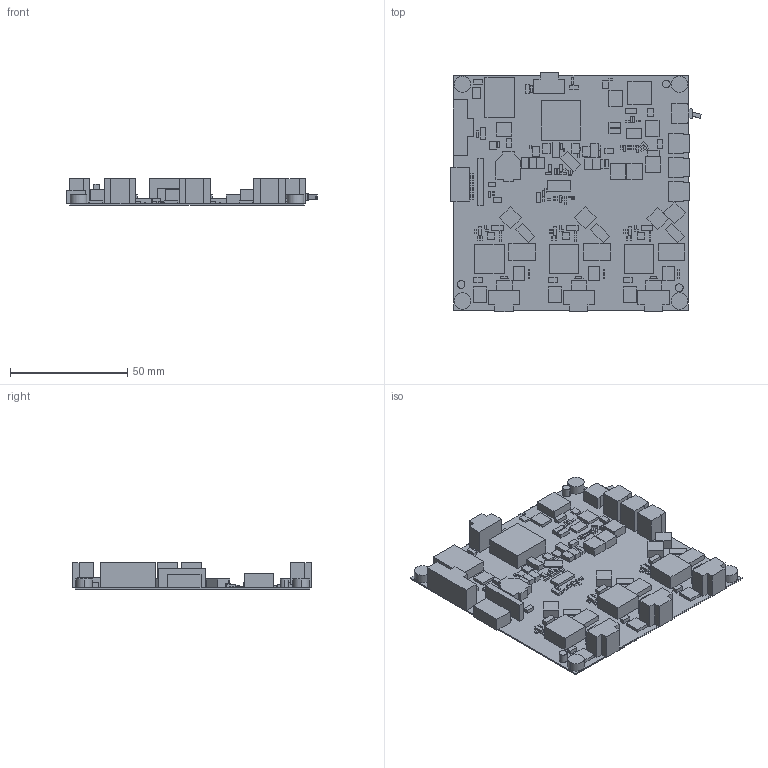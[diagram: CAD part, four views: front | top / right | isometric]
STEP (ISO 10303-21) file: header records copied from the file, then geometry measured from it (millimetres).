
FILE_DESCRIPTION(/* description */ ('PCB Design'),/* implementation_level */ '2;1');
FILE_NAME(/* name */ 'DLP006C_DLP5531-Q1_HL_Driver',/* time_stamp */ '2023-12-20T14:59:58-06:00',/* author */ ('a0227197'),/* organization */ (''),/* preprocessor_version */ 'ST-DEVELOPER v16',/* originating_system */ 'allegro_17.4S029',/* authorisation */ '');
FILE_SCHEMA (('AUTOMOTIVE_DESIGN { 1 0 10303 214 3 1 1 }'));
Length unit declared in the file: millimetre
Products named in the file (52): DLP006C_DLP5531-Q1_HL_DRIVER; BOARD_OUTLINE; COMPONENTS; POWERPAK-SO-8L-4_SQJ148EP; POWERPAK-SO-8L-4_SQJA80EP; SO-8_NRVTS560EMFST1G; KOA_TLRH3APTTE8L00F; CONN-4POS_105309-1304; CONN-4POS_105309-1204; CONN-2POS_105309-1202; HTSSOP-20_LM25118Q1MHE-NOPB; SOT-23_UCC27511A-Q1; MSOP-10-POWERPAD_LM3409QMY-NOPB; VSSOP-8_LM74610QDGKTQ1; HTSSOP-28_LM5175QPWPTQ1; TESTPOINT_S1751-46R; SWITCH_G3T12AH-R; R_1206; R_2512; R_0603; LFPAK33-5_BUK7M67-60EX; TO-252-3_IPD50P04P4-13; POWERDI3333-8_DMT6007LFG-7; INDUCTOR_SRP1038A-330M; L_0402; INDUCTOR_SRP1265A-220M; INDUCTOR_SRP1770TA-4R7M; L_0805; L_1206; CONN-9POS_501331-0907; CONN-8POS_105309-1208; HEADER_68000-408HLF; SMB-2_B240Q-13-F; SO-8-FL_NTS1545MFST1G; SMA_B360A-13-F; SOD-323-2_BAT46WJ-115; SMA-DO-214AC_SS12-E3-61T; SOD-123_MBR0520LT1G; SOD-123W_PTVS17VS1UR-115; D2PAK-3_LDP01-39AY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
Assembly tree (204 placements, depth 3):
  DLP006C_DLP5531-Q1_HL_DRIVER
    BOARD_OUTLINE
    COMPONENTS
      POWERPAK-SO-8L-4_SQJ148EP  x3
      POWERPAK-SO-8L-4_SQJA80EP
      SO-8_NRVTS560EMFST1G  x2
      KOA_TLRH3APTTE8L00F
      CONN-4POS_105309-1304  x3
      CONN-4POS_105309-1204
      CONN-2POS_105309-1202  x3
      HTSSOP-20_LM25118Q1MHE-NOPB
      SOT-23_UCC27511A-Q1
      MSOP-10-POWERPAD_LM3409QMY-NOPB  x3
      VSSOP-8_LM74610QDGKTQ1
      HTSSOP-28_LM5175QPWPTQ1
      TESTPOINT_S1751-46R  x7
      SWITCH_G3T12AH-R
      R_1206
      R_2512  x3
      R_0603  x3
      LFPAK33-5_BUK7M67-60EX  x2
      TO-252-3_IPD50P04P4-13  x3
      POWERDI3333-8_DMT6007LFG-7  x4
      INDUCTOR_SRP1038A-330M
      L_0402  x3
      INDUCTOR_SRP1265A-220M  x3
      INDUCTOR_SRP1770TA-4R7M
      L_0805  x2
      L_1206
      CONN-9POS_501331-0907
      CONN-8POS_105309-1208
      HEADER_68000-408HLF
      SMB-2_B240Q-13-F  x3
      SO-8-FL_NTS1545MFST1G  x3
      SMA_B360A-13-F
      SOD-323-2_BAT46WJ-115  x2
      SMA-DO-214AC_SS12-E3-61T
      SOD-123_MBR0520LT1G
      SOD-123W_PTVS17VS1UR-115
      D2PAK-3_LDP01-39AY
      CAP_ALUM_EEE-FPE101XAP
      CAP_ALUM_EEE-FK1E101SP  x4
      CAP_ALUM_EEH-ZC1V470P  x2
      C_1210  x6
      CAL_ALUM_EEH-ZC1J680V
      R_0402  x52
      C_0603  x18
      C_0805  x5
      C_1206  x6
      C_0402  x28
      MH9-276-157  x4
      FID50_SYM  x3
Bounding box: 106.71 x 101.97 x 11.25 mm (x, y, z)
Surface area: 38299.3 mm2 (no closed solid volume)
Topology: 0 solids, 205 shells, 1288 faces, 2847 edges, 1756 vertices
Faces by surface type: plane 1258, cylinder 30
Entity records: 12080 total; most frequent: ORIENTED_EDGE 1560, DIRECTION 1447, CARTESIAN_POINT 903, EDGE_CURVE 840, AXIS2_PLACEMENT_3D 812, VECTOR 800, LINE 800, VERTEX_POINT 640
